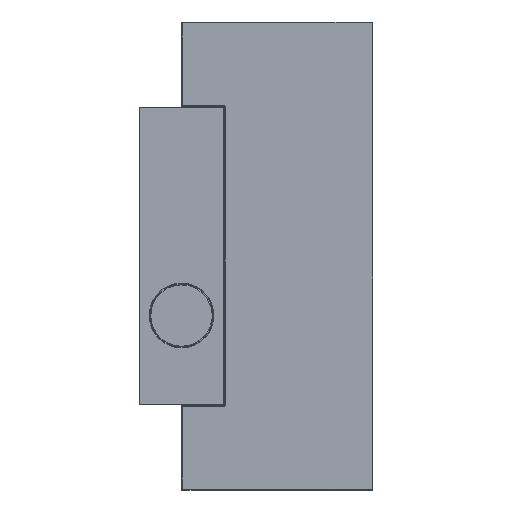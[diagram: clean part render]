
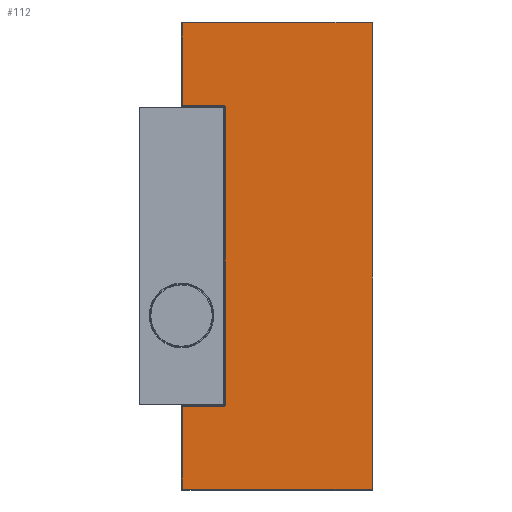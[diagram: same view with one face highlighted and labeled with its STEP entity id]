
A CAD part, top view. The second image highlights one B-rep face of the part: STEP entity #112.
In plain terms, the highlighted planar face has unit normal (0, 0, 1).
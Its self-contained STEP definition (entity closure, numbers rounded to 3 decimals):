
#112=ADVANCED_FACE('',(#240),#1724,.T.);
#240=FACE_OUTER_BOUND('',#370,.T.);
#370=EDGE_LOOP('',(#786,#787,#788,#789,#790,#791,#792,#793,#794,#795));
#786=ORIENTED_EDGE('',*,*,#1157,.F.);
#787=ORIENTED_EDGE('',*,*,#1155,.F.);
#788=ORIENTED_EDGE('',*,*,#1197,.F.);
#789=ORIENTED_EDGE('',*,*,#1152,.F.);
#790=ORIENTED_EDGE('',*,*,#1191,.F.);
#791=ORIENTED_EDGE('',*,*,#1154,.F.);
#792=ORIENTED_EDGE('',*,*,#1156,.F.);
#793=ORIENTED_EDGE('',*,*,#1151,.F.);
#794=ORIENTED_EDGE('',*,*,#1153,.F.);
#795=ORIENTED_EDGE('',*,*,#1150,.F.);
#1150=EDGE_CURVE('',#1612,#1613,#1422,.T.);
#1151=EDGE_CURVE('',#1614,#1615,#1423,.T.);
#1152=EDGE_CURVE('',#1618,#1616,#1424,.T.);
#1153=EDGE_CURVE('',#1613,#1614,#1425,.T.);
#1154=EDGE_CURVE('',#1620,#1619,#1426,.T.);
#1155=EDGE_CURVE('',#1617,#1621,#1427,.T.);
#1156=EDGE_CURVE('',#1615,#1620,#1428,.T.);
#1157=EDGE_CURVE('',#1621,#1612,#1429,.T.);
#1191=EDGE_CURVE('',#1619,#1618,#1296,.T.);
#1197=EDGE_CURVE('',#1616,#1617,#1298,.T.);
#1296=(
BOUNDED_CURVE()
B_SPLINE_CURVE(2,(#3188,#3189,#3190),.UNSPECIFIED.,.F.,.F.)
B_SPLINE_CURVE_WITH_KNOTS((3,3),(0.,6.283),
 .UNSPECIFIED.)
CURVE()
GEOMETRIC_REPRESENTATION_ITEM()
RATIONAL_B_SPLINE_CURVE((1.,0.707,1.))
REPRESENTATION_ITEM('')
);
#1298=(
BOUNDED_CURVE()
B_SPLINE_CURVE(2,(#3202,#3203,#3204),.UNSPECIFIED.,.F.,.F.)
B_SPLINE_CURVE_WITH_KNOTS((3,3),(0.,6.283),
 .UNSPECIFIED.)
CURVE()
GEOMETRIC_REPRESENTATION_ITEM()
RATIONAL_B_SPLINE_CURVE((1.,0.707,1.))
REPRESENTATION_ITEM('')
);
#1422=B_SPLINE_CURVE_WITH_KNOTS('',1,(#3106,#3107),.UNSPECIFIED.,.F.,.F.,
(2,2),(1.,447.),.UNSPECIFIED.);
#1423=B_SPLINE_CURVE_WITH_KNOTS('',1,(#3108,#3109),.UNSPECIFIED.,.F.,.F.,
(2,2),(1.,447.),.UNSPECIFIED.);
#1424=B_SPLINE_CURVE_WITH_KNOTS('',1,(#3110,#3111),.UNSPECIFIED.,.F.,.F.,
(2,2),(0.,698.),.UNSPECIFIED.);
#1425=B_SPLINE_CURVE_WITH_KNOTS('',1,(#3112,#3113),.UNSPECIFIED.,.F.,.F.,
(2,2),(1.,1097.),.UNSPECIFIED.);
#1426=B_SPLINE_CURVE_WITH_KNOTS('',1,(#3114,#3115),.UNSPECIFIED.,.F.,.F.,
(2,2),(1.,98.),.UNSPECIFIED.);
#1427=B_SPLINE_CURVE_WITH_KNOTS('',1,(#3116,#3117),.UNSPECIFIED.,.F.,.F.,
(2,2),(0.,97.),.UNSPECIFIED.);
#1428=B_SPLINE_CURVE_WITH_KNOTS('',1,(#3118,#3119),.UNSPECIFIED.,.F.,.F.,
(2,2),(1.,196.),.UNSPECIFIED.);
#1429=B_SPLINE_CURVE_WITH_KNOTS('',1,(#3120,#3121),.UNSPECIFIED.,.F.,.F.,
(2,2),(1.,196.),.UNSPECIFIED.);
#1612=VERTEX_POINT('',#3010);
#1613=VERTEX_POINT('',#3011);
#1614=VERTEX_POINT('',#3012);
#1615=VERTEX_POINT('',#3013);
#1616=VERTEX_POINT('',#3014);
#1617=VERTEX_POINT('',#3015);
#1618=VERTEX_POINT('',#3016);
#1619=VERTEX_POINT('',#3017);
#1620=VERTEX_POINT('',#3018);
#1621=VERTEX_POINT('',#3019);
#1724=PLANE('',#1916);
#1916=AXIS2_PLACEMENT_3D('',#2918,#2023,$);
#2023=DIRECTION('',(0.,0.,1.));
#2918=CARTESIAN_POINT('',(4805.071,1109.98,4.));
#3010=CARTESIAN_POINT('',(4810.551,1098.,4.));
#3011=CARTESIAN_POINT('',(5256.551,1098.,4.));
#3012=CARTESIAN_POINT('',(5256.551,2.,4.));
#3013=CARTESIAN_POINT('',(4810.551,2.,4.));
#3014=CARTESIAN_POINT('',(4911.551,899.,4.));
#3015=CARTESIAN_POINT('',(4907.551,903.,4.));
#3016=CARTESIAN_POINT('',(4911.551,201.,4.));
#3017=CARTESIAN_POINT('',(4907.551,197.,4.));
#3018=CARTESIAN_POINT('',(4810.551,197.,4.));
#3019=CARTESIAN_POINT('',(4810.551,903.,4.));
#3106=CARTESIAN_POINT('',(4810.551,1098.,4.));
#3107=CARTESIAN_POINT('',(5256.551,1098.,4.));
#3108=CARTESIAN_POINT('',(5256.551,2.,4.));
#3109=CARTESIAN_POINT('',(4810.551,2.,4.));
#3110=CARTESIAN_POINT('',(4911.551,201.,4.));
#3111=CARTESIAN_POINT('',(4911.551,899.,4.));
#3112=CARTESIAN_POINT('',(5256.551,1098.,4.));
#3113=CARTESIAN_POINT('',(5256.551,2.,4.));
#3114=CARTESIAN_POINT('',(4810.551,197.,4.));
#3115=CARTESIAN_POINT('',(4907.551,197.,4.));
#3116=CARTESIAN_POINT('',(4907.551,903.,4.));
#3117=CARTESIAN_POINT('',(4810.551,903.,4.));
#3118=CARTESIAN_POINT('',(4810.551,2.,4.));
#3119=CARTESIAN_POINT('',(4810.551,197.,4.));
#3120=CARTESIAN_POINT('',(4810.551,903.,4.));
#3121=CARTESIAN_POINT('',(4810.551,1098.,4.));
#3188=CARTESIAN_POINT('',(4907.551,197.,4.));
#3189=CARTESIAN_POINT('',(4911.551,197.,4.));
#3190=CARTESIAN_POINT('',(4911.551,201.,4.));
#3202=CARTESIAN_POINT('',(4911.551,899.,4.));
#3203=CARTESIAN_POINT('',(4911.551,903.,4.));
#3204=CARTESIAN_POINT('',(4907.551,903.,4.));
